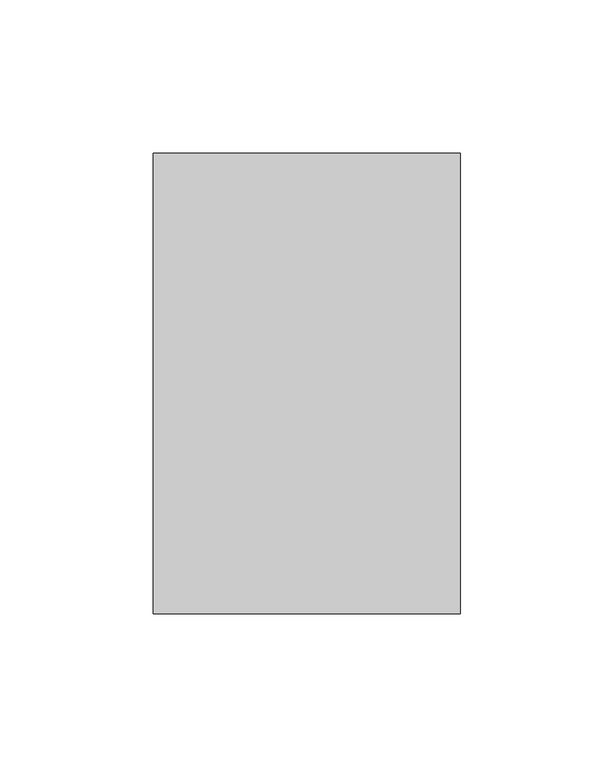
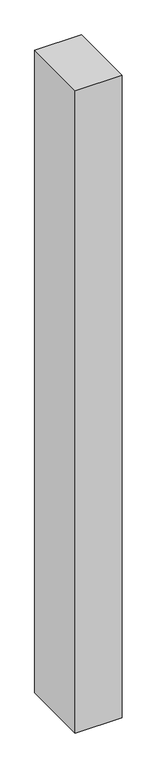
"""IFC4 building model written with IfcOpenShell, lengths in millimetres: member geometry, 矩形竖梃 : 教学楼 – 矩形竖梃 – 100x150mm."""

from ifc_helpers import new_model, si_unit, frame, origin, place, context, project, spatial, polyline, outline, extrude, source, transform, mapped, element, save


def member_a374fdad(model_context):
    return source(origin(), model_context, "Body", "SweptSolid", [
        extrude(outline(polyline([(0.0, 75.0), (0.0, -75.0), (-100.0, -75.0), (-100.0, 75.0), (0.0, 75.0)])), frame((0.0, 0.0, -1450.0), z_axis=(0.0, 0.0, 1.0), x_axis=(1.0, 0.0, 0.0)), (0.0, 0.0, 1.0), 1450.0),
    ])


if __name__ == "__main__":
    model = new_model("IFC4")
    model_context = context("Model", 3, world=origin())
    ifc_project = project(units=[si_unit("LENGTHUNIT", "METRE", prefix="MILLI")], contexts=[model_context])
    site = spatial("IfcSite", under=ifc_project)
    building = spatial("IfcBuilding", under=site)
    placement = place(None, origin())
    member_shape = member_a374fdad(model_context)
    element("IfcMember", 1, ObjectType="矩形竖梃 : 教学楼 – 矩形竖梃 – 100x150mm", at=placement, inside=building, context=model_context, shape_type="MappedRepresentation", body=[
        mapped(member_shape, transform((0.0, 0.0, 0.0), x_axis=(1.0, 0.0, 0.0), y_axis=(0.0, 1.0, 0.0), z_axis=(0.0, 0.0, 1.0))),
    ])
    save(model, "model.ifc")
